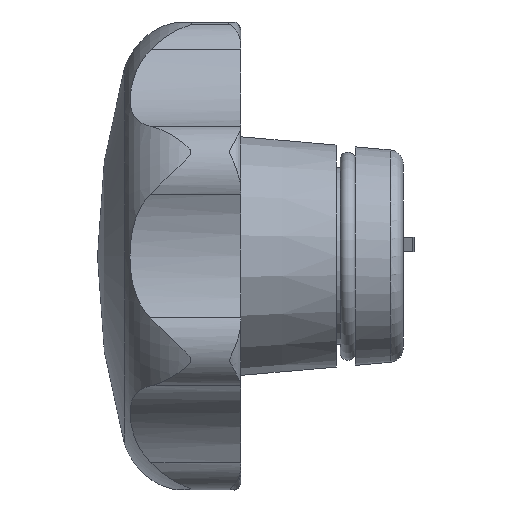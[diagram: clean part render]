
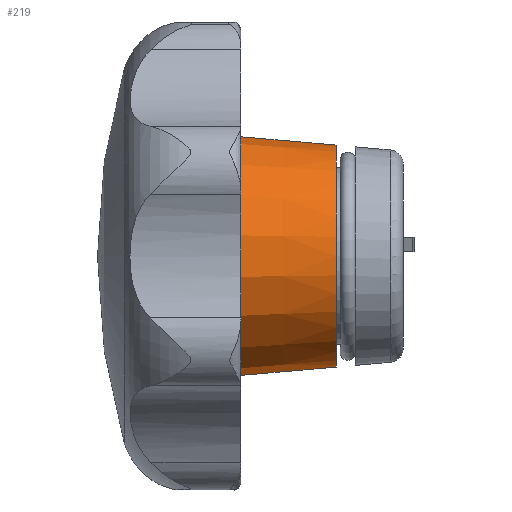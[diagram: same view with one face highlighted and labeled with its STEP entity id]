
A CAD part, left-side view. The second image highlights one B-rep face of the part: STEP entity #219.
In plain terms, the highlighted conical face has half-angle 5 degrees and reference radius 13.109 mm.
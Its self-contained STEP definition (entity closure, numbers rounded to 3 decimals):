
#219 = ADVANCED_FACE( '', ( #428, #429 ), #430, .T. );
#428 = FACE_BOUND( '', #752, .T. );
#429 = FACE_OUTER_BOUND( '', #753, .T. );
#430 = CONICAL_SURFACE( '', #754, 13.109, 0.087 );
#752 = EDGE_LOOP( '', ( #1376 ) );
#753 = EDGE_LOOP( '', ( #1377 ) );
#754 = AXIS2_PLACEMENT_3D( '', #1378, #1379, #1380 );
#1376 = ORIENTED_EDGE( '', *, *, #2165, .F. );
#1377 = ORIENTED_EDGE( '', *, *, #2164, .T. );
#1378 = CARTESIAN_POINT( '', ( 0., 24.053, 0. ) );
#1379 = DIRECTION( '', ( 0., 1., 0. ) );
#1380 = DIRECTION( '', ( 0., 0., 1. ) );
#2164 = EDGE_CURVE( '', #2626, #2626, #2627, .T. );
#2165 = EDGE_CURVE( '', #2628, #2628, #2629, .T. );
#2626 = VERTEX_POINT( '', #4110 );
#2627 = CIRCLE( '', #4111, 13.109 );
#2628 = VERTEX_POINT( '', #4112 );
#2629 = CIRCLE( '', #4113, 11.617 );
#4110 = CARTESIAN_POINT( '', ( 0., 24.053, -13.109 ) );
#4111 = AXIS2_PLACEMENT_3D( '', #4690, #4691, #4692 );
#4112 = CARTESIAN_POINT( '', ( 0., 7., -11.617 ) );
#4113 = AXIS2_PLACEMENT_3D( '', #4693, #4694, #4695 );
#4690 = CARTESIAN_POINT( '', ( 0., 24.053, 0. ) );
#4691 = DIRECTION( '', ( 0., -1., 0. ) );
#4692 = DIRECTION( '', ( 0., 0., -1. ) );
#4693 = CARTESIAN_POINT( '', ( 0., 7., 0. ) );
#4694 = DIRECTION( '', ( 0., -1., 0. ) );
#4695 = DIRECTION( '', ( 0., 0., -1. ) );
